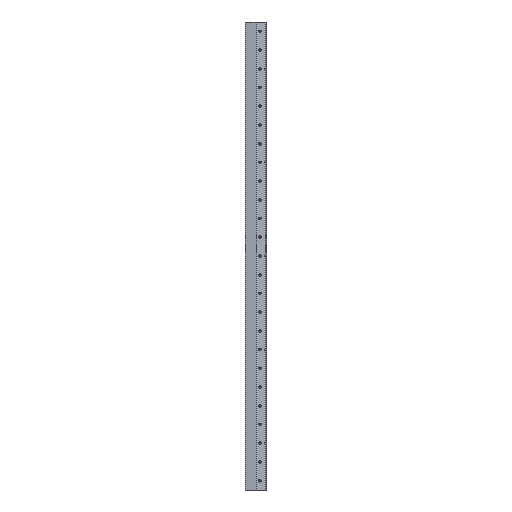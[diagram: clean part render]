
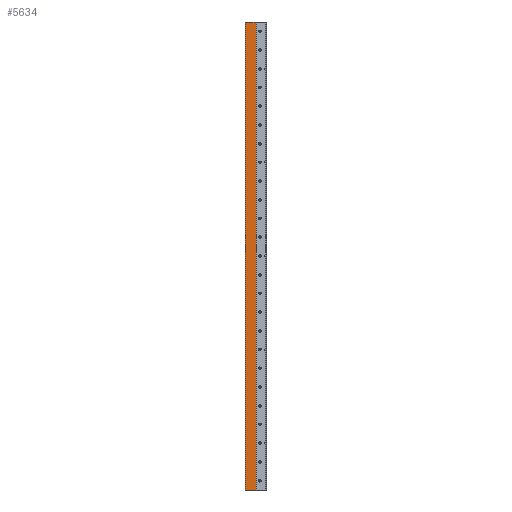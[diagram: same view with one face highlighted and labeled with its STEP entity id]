
A CAD part, left-side view. The second image highlights one B-rep face of the part: STEP entity #5634.
In plain terms, the highlighted planar face has unit normal (-1, 0, 0).
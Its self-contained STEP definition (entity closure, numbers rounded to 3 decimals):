
#232=PLANE('',#6265);
#575=FACE_OUTER_BOUND('',#977,.T.);
#977=EDGE_LOOP('',(#4884,#4885,#4886,#4887));
#1173=LINE('',#8807,#1623);
#1418=LINE('',#9586,#1868);
#1442=LINE('',#9651,#1892);
#1443=LINE('',#9653,#1893);
#1623=VECTOR('',#7014,10.);
#1868=VECTOR('',#7803,10.);
#1892=VECTOR('',#7879,10.);
#1893=VECTOR('',#7882,10.);
#2463=VERTEX_POINT('',#8804);
#2464=VERTEX_POINT('',#8806);
#2726=VERTEX_POINT('',#9584);
#2741=VERTEX_POINT('',#9649);
#3102=EDGE_CURVE('',#2464,#2463,#1173,.T.);
#3495=EDGE_CURVE('',#2726,#2463,#1418,.T.);
#3528=EDGE_CURVE('',#2464,#2741,#1442,.T.);
#3529=EDGE_CURVE('',#2726,#2741,#1443,.T.);
#4884=ORIENTED_EDGE('',*,*,#3495,.F.);
#4885=ORIENTED_EDGE('',*,*,#3529,.T.);
#4886=ORIENTED_EDGE('',*,*,#3528,.F.);
#4887=ORIENTED_EDGE('',*,*,#3102,.T.);
#5634=ADVANCED_FACE('',(#575),#232,.T.);
#6265=AXIS2_PLACEMENT_3D('',#9652,#7880,#7881);
#7014=DIRECTION('',(0.,-1.,0.));
#7803=DIRECTION('',(0.,0.,-1.));
#7879=DIRECTION('',(0.,0.,1.));
#7880=DIRECTION('center_axis',(-1.,0.,0.));
#7881=DIRECTION('ref_axis',(0.,0.,1.));
#7882=DIRECTION('',(0.,1.,0.));
#8804=CARTESIAN_POINT('',(-74.826,113.156,0.));
#8806=CARTESIAN_POINT('',(-74.826,228.583,0.));
#8807=CARTESIAN_POINT('',(-74.826,229.041,0.));
#9584=CARTESIAN_POINT('',(-74.826,113.156,5000.));
#9586=CARTESIAN_POINT('',(-74.826,113.156,0.));
#9649=CARTESIAN_POINT('',(-74.826,228.583,5000.));
#9651=CARTESIAN_POINT('',(-74.826,228.583,0.));
#9652=CARTESIAN_POINT('Origin',(-74.826,113.,0.));
#9653=CARTESIAN_POINT('',(-74.826,229.041,5000.));
